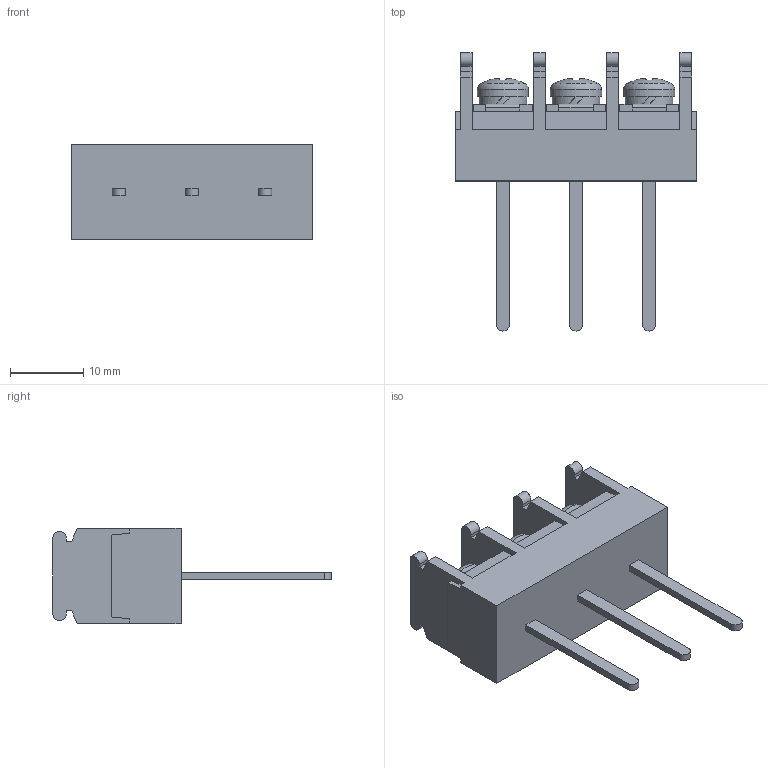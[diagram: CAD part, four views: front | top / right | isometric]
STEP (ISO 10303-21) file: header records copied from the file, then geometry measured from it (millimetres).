
FILE_DESCRIPTION(/* description */ ('Alibre Inc.'),/* implementation_level */ '2;1');
FILE_NAME(/* name */ 'export0',/* time_stamp */ '2015-10-17T19:22:03+09:00',/* author */ (''),/* organization */ (''),/* preprocessor_version */ 'ST-DEVELOPER v14',/* originating_system */ 'Alibre',/* authorisation */ '');
FILE_SCHEMA (('CONFIG_CONTROL_DESIGN'));
Length unit declared in the file: centimetre
Products named in the file (1): ID_1
Bounding box: 33 x 38 x 13 mm (x, y, z)
Volume: 5199 mm3; surface area: 3453.3 mm2
Topology: 1 solids, 17 shells, 593 faces, 1581 edges, 1051 vertices
Faces by surface type: plane 442, bspline 104, cylinder 26, cone 12, torus 6, sphere 3
Full cylindrical faces by diameter (mm): 4 x3, 6.5 x3, 7 x3
Entity records: 17884 total; most frequent: CARTESIAN_POINT 4217, ORIENTED_EDGE 3120, DIRECTION 1994, EDGE_CURVE 1560, VECTOR 1192, LINE 1192, VERTEX_POINT 1042, EDGE_LOOP 648
